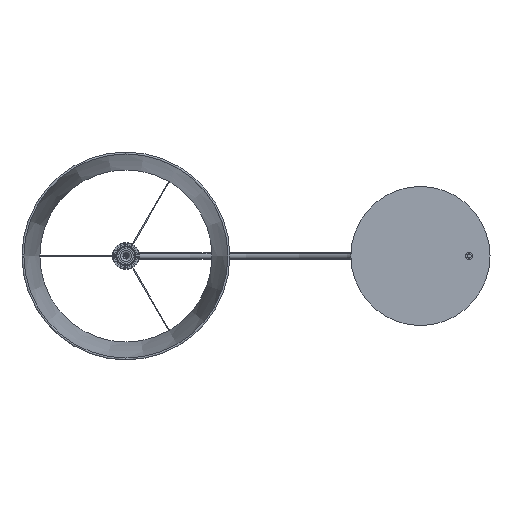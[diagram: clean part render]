
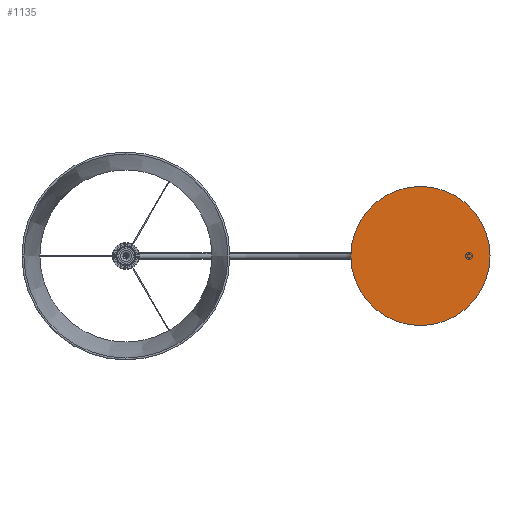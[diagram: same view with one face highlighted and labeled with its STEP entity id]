
A CAD part, front view. The second image highlights one B-rep face of the part: STEP entity #1135.
In plain terms, the highlighted planar face has unit normal (0, -1, 0).
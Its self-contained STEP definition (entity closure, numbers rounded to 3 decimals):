
#145=PLANE('',#1261);
#201=FACE_OUTER_BOUND('',#289,.T.);
#289=EDGE_LOOP('',(#907));
#424=CIRCLE('',#1259,150.);
#533=VERTEX_POINT('',#7717);
#667=EDGE_CURVE('',#533,#533,#424,.T.);
#907=ORIENTED_EDGE('',*,*,#667,.F.);
#1135=ADVANCED_FACE('',(#201),#145,.F.);
#1259=AXIS2_PLACEMENT_3D('',#7719,#1486,#1487);
#1261=AXIS2_PLACEMENT_3D('',#7721,#1490,#1491);
#1486=DIRECTION('center_axis',(0.,1.,0.));
#1487=DIRECTION('ref_axis',(1.,0.,0.));
#1490=DIRECTION('center_axis',(0.,1.,0.));
#1491=DIRECTION('ref_axis',(1.,0.,0.));
#7717=CARTESIAN_POINT('',(-150.,0.,0.));
#7719=CARTESIAN_POINT('Origin',(0.,0.,0.));
#7721=CARTESIAN_POINT('Origin',(0.,0.,0.));
